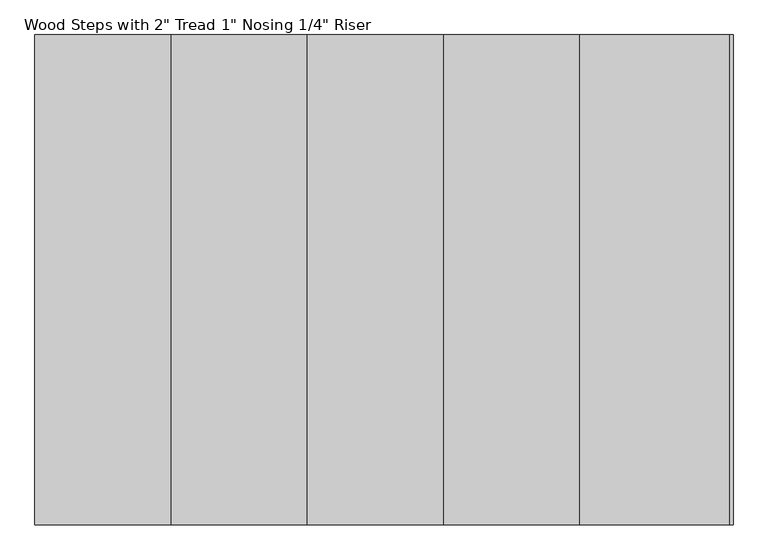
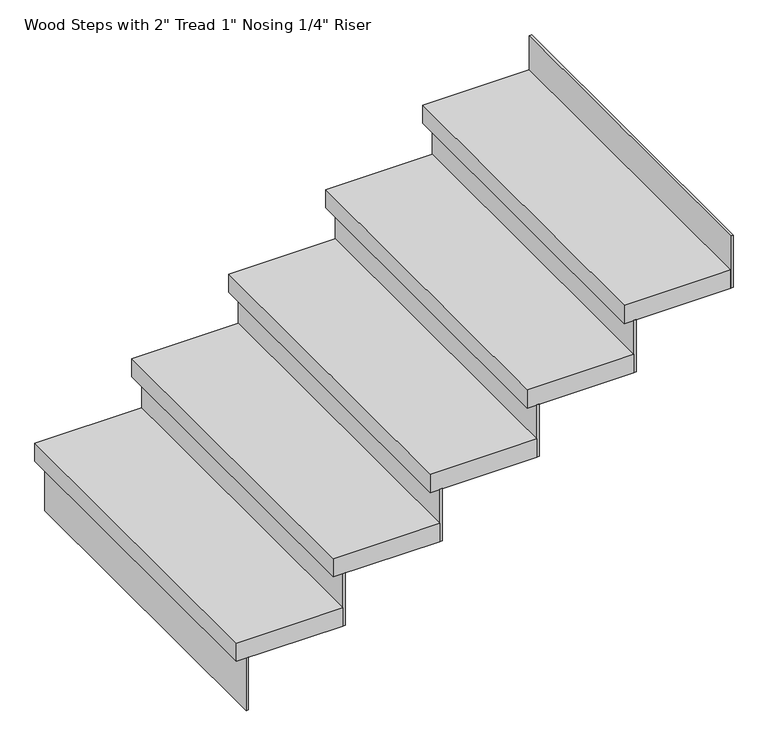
"""IFC4 building model written with IfcOpenShell, lengths in millimetres: stair flight geometry."""

from ifc_helpers import new_model, si_unit, frame, origin, place, context, project, spatial, polyline, outline, extrude, source, transform, mapped, element, save


def stair_flight_499292b3(model_context):
    return source(origin(), model_context, "Body", "SweptSolid", [
        extrude(outline(polyline([(-45950.7885422, 6638.322839), (-45957.1385422, 6638.322839), (-45957.1385422, 7552.722839), (-45950.7885422, 7552.722839), (-45950.7885422, 6638.322839)])), frame((0.0, 0.0, 2126.3428571), z_axis=(0.0, 0.0, 1.0), x_axis=(1.0, 0.0, 0.0)), (0.0, 0.0, 1.0), 145.1428571),
        extrude(outline(polyline([(-45703.1385422, 7552.722839), (-45703.1385422, 6638.322839), (-45982.5385422, 6638.322839), (-45982.5385422, 7552.722839), (-45703.1385422, 7552.722839)])), frame((0.0, 0.0, 2271.4857143), z_axis=(0.0, 0.0, 1.0), x_axis=(1.0, 0.0, 0.0)), (0.0, 0.0, 1.0), 50.8),
        extrude(outline(polyline([(-45696.7885422, 6638.322839), (-45703.1385422, 6638.322839), (-45703.1385422, 7552.722839), (-45696.7885422, 7552.722839), (-45696.7885422, 6638.322839)])), frame((0.0, 0.0, 2271.4857143), z_axis=(0.0, 0.0, 1.0), x_axis=(1.0, 0.0, 0.0)), (0.0, 0.0, 1.0), 145.1428571),
        extrude(outline(polyline([(-45449.1385422, 7552.722839), (-45449.1385422, 6638.322839), (-45728.5385422, 6638.322839), (-45728.5385422, 7552.722839), (-45449.1385422, 7552.722839)])), frame((0.0, 0.0, 2416.6285714), z_axis=(0.0, 0.0, 1.0), x_axis=(1.0, 0.0, 0.0)), (0.0, 0.0, 1.0), 50.8),
        extrude(outline(polyline([(-45442.7885422, 6638.322839), (-45449.1385422, 6638.322839), (-45449.1385422, 7552.722839), (-45442.7885422, 7552.722839), (-45442.7885422, 6638.322839)])), frame((0.0, 0.0, 2416.6285714), z_axis=(0.0, 0.0, 1.0), x_axis=(1.0, 0.0, 0.0)), (0.0, 0.0, 1.0), 145.1428571),
        extrude(outline(polyline([(-45195.1385422, 7552.722839), (-45195.1385422, 6638.322839), (-45474.5385422, 6638.322839), (-45474.5385422, 7552.722839), (-45195.1385422, 7552.722839)])), frame((0.0, 0.0, 2561.7714286), z_axis=(0.0, 0.0, 1.0), x_axis=(1.0, 0.0, 0.0)), (0.0, 0.0, 1.0), 50.8),
        extrude(outline(polyline([(-45188.7885422, 6638.322839), (-45195.1385422, 6638.322839), (-45195.1385422, 7552.722839), (-45188.7885422, 7552.722839), (-45188.7885422, 6638.322839)])), frame((0.0, 0.0, 2561.7714286), z_axis=(0.0, 0.0, 1.0), x_axis=(1.0, 0.0, 0.0)), (0.0, 0.0, 1.0), 145.1428571),
        extrude(outline(polyline([(-44941.1385422, 7552.722839), (-44941.1385422, 6638.322839), (-45220.5385422, 6638.322839), (-45220.5385422, 7552.722839), (-44941.1385422, 7552.722839)])), frame((0.0, 0.0, 2706.9142857), z_axis=(0.0, 0.0, 1.0), x_axis=(1.0, 0.0, 0.0)), (0.0, 0.0, 1.0), 50.8),
        extrude(outline(polyline([(-44934.7885422, 6638.322839), (-44941.1385422, 6638.322839), (-44941.1385422, 7552.722839), (-44934.7885422, 7552.722839), (-44934.7885422, 6638.322839)])), frame((0.0, 0.0, 2706.9142857), z_axis=(0.0, 0.0, 1.0), x_axis=(1.0, 0.0, 0.0)), (0.0, 0.0, 1.0), 145.1428571),
        extrude(outline(polyline([(-44680.7885422, 6638.322839), (-44687.1385422, 6638.322839), (-44687.1385422, 7552.722839), (-44680.7885422, 7552.722839), (-44680.7885422, 6638.322839)])), frame((0.0, 0.0, 2852.0571429), z_axis=(0.0, 0.0, 1.0), x_axis=(1.0, 0.0, 0.0)), (0.0, 0.0, 1.0), 145.1428571),
        extrude(outline(polyline([(-44687.1385422, 7552.722839), (-44687.1385422, 6638.322839), (-44966.5385422, 6638.322839), (-44966.5385422, 7552.722839), (-44687.1385422, 7552.722839)])), frame((0.0, 0.0, 2852.0571429), z_axis=(0.0, 0.0, 1.0), x_axis=(1.0, 0.0, 0.0)), (0.0, 0.0, 1.0), 50.8),
    ])


if __name__ == "__main__":
    model = new_model("IFC4")
    model_context = context("Model", 3, world=origin())
    ifc_project = project(units=[si_unit("LENGTHUNIT", "METRE", prefix="MILLI")], contexts=[model_context])
    site = spatial("IfcSite", under=ifc_project)
    building = spatial("IfcBuilding", under=site)
    placement = place(None, origin())
    stair_flight_shape = stair_flight_499292b3(model_context)
    element("IfcStairFlight", 1, ObjectType="Wood Steps with 2\" Tread 1\" Nosing 1/4\" Riser", at=placement, inside=building, context=model_context, shape_type="MappedRepresentation", body=[
        mapped(stair_flight_shape, transform((0.0, 0.0, 0.0), x_axis=(1.0, 0.0, 0.0), y_axis=(0.0, 1.0, 0.0), z_axis=(0.0, 0.0, 1.0))),
    ])
    save(model, "model.ifc")
